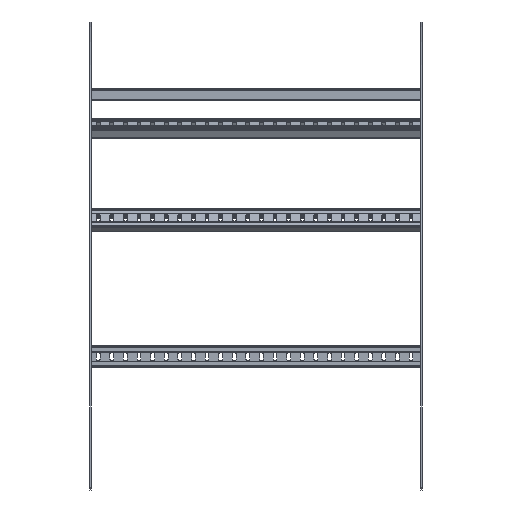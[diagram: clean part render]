
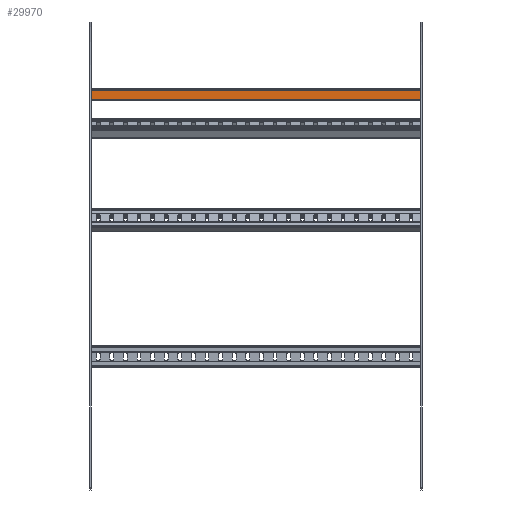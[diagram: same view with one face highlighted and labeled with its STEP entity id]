
A CAD part, left-side view. The second image highlights one B-rep face of the part: STEP entity #29970.
In plain terms, the highlighted planar face has unit normal (-1, 0, 0).
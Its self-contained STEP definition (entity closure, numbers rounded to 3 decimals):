
#27070=CARTESIAN_POINT('',(0.,896.5,-202.5));
#27080=VERTEX_POINT('',#27070);
#27110=CARTESIAN_POINT('',(0.,0.,-202.5));
#27120=DIRECTION('',(0.,1.,0.));
#27130=VECTOR('',#27120,1.);
#27140=LINE('',#27110,#27130);
#27150=CARTESIAN_POINT('',(0.,881.5,-202.5));
#27160=VERTEX_POINT('',#27150);
#27170=EDGE_CURVE('',#27160,#27080,#27140,.T.);
#29670=CARTESIAN_POINT('',(0.,878.,40.));
#29680=DIRECTION('',(-1.,0.,0.));
#29690=DIRECTION('',(0.,1.,0.));
#29700=AXIS2_PLACEMENT_3D('',#29670,#29680,#29690);
#29710=PLANE('',#29700);
#29720=CARTESIAN_POINT('',(0.,881.5,40.));
#29730=DIRECTION('',(0.,0.,1.));
#29740=VECTOR('',#29730,1.);
#29750=LINE('',#29720,#29740);
#29760=CARTESIAN_POINT('',(0.,881.5,402.5));
#29770=VERTEX_POINT('',#29760);
#29780=EDGE_CURVE('',#27160,#29770,#29750,.T.);
#29790=ORIENTED_EDGE('',*,*,#29780,.T.);
#29800=ORIENTED_EDGE('',*,*,#27170,.F.);
#29810=CARTESIAN_POINT('',(0.,896.5,40.));
#29820=DIRECTION('',(0.,0.,1.));
#29830=VECTOR('',#29820,1.);
#29840=LINE('',#29810,#29830);
#29850=CARTESIAN_POINT('',(0.,896.5,402.5));
#29860=VERTEX_POINT('',#29850);
#29870=EDGE_CURVE('',#27080,#29860,#29840,.T.);
#29880=ORIENTED_EDGE('',*,*,#29870,.F.);
#29890=CARTESIAN_POINT('',(0.,0.,402.5));
#29900=DIRECTION('',(0.,-1.,0.));
#29910=VECTOR('',#29900,1.);
#29920=LINE('',#29890,#29910);
#29930=EDGE_CURVE('',#29860,#29770,#29920,.T.);
#29940=ORIENTED_EDGE('',*,*,#29930,.F.);
#29950=EDGE_LOOP('',(#29940,#29880,#29800,#29790));
#29960=FACE_OUTER_BOUND('',#29950,.T.);
#29970=ADVANCED_FACE('',(#29960),#29710,.T.);
